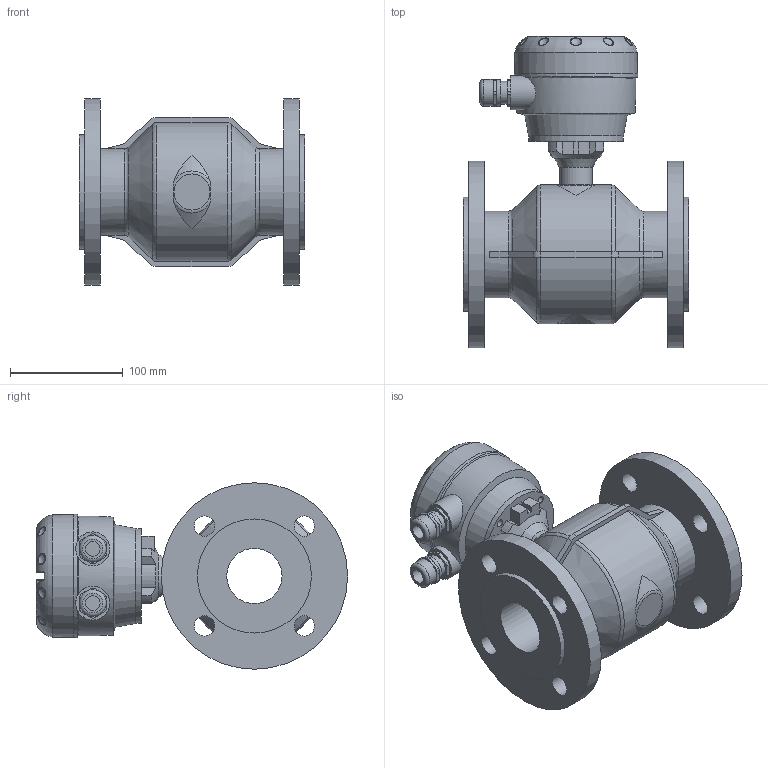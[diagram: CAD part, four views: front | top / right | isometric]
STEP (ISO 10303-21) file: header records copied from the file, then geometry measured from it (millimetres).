
FILE_DESCRIPTION (( 'STEP AP203' ), '1' );
FILE_NAME ('KROHNE_OPTIFLUX_2-4000W-WATERFLUX_3000F_DIN2633_DN50_PN16.STEP', '2011-04-26T11:23:56', ( '' ), ( '' ), 'SwSTEP 2.0', 'SolidWorks 2010', '' );
FILE_SCHEMA (( 'CONFIG_CONTROL_DESIGN' ));
Length unit declared in the file: millimetre
Products named in the file (1): KROHNE_OPTIFLUX_2-4000W-WATERFLUX_3000F_DIN2633_DN50_PN16
Bounding box: 200 x 275.49 x 165 mm (x, y, z)
Volume: 2477647.9 mm3; surface area: 287064 mm2
Topology: 14 solids, 14 shells, 383 faces, 944 edges, 610 vertices
Faces by surface type: plane 179, cylinder 94, bspline 53, torus 30, cone 14, sphere 13
Full cylindrical faces by diameter (mm): 4 x4, 6.6 x8, 13 x2, 18 x8, 20 x2, 23.5 x4, 29 x1, 30 x2, 49 x1, 76.6 x2, 84 x2, 101 x2, 109 x1, 165 x2
Entity records: 15584 total; most frequent: CARTESIAN_POINT 7077, ORIENTED_EDGE 1714, DIRECTION 1609, EDGE_CURVE 857, VERTEX_POINT 591, AXIS2_PLACEMENT_3D 591, EDGE_LOOP 516, FACE_OUTER_BOUND 441
